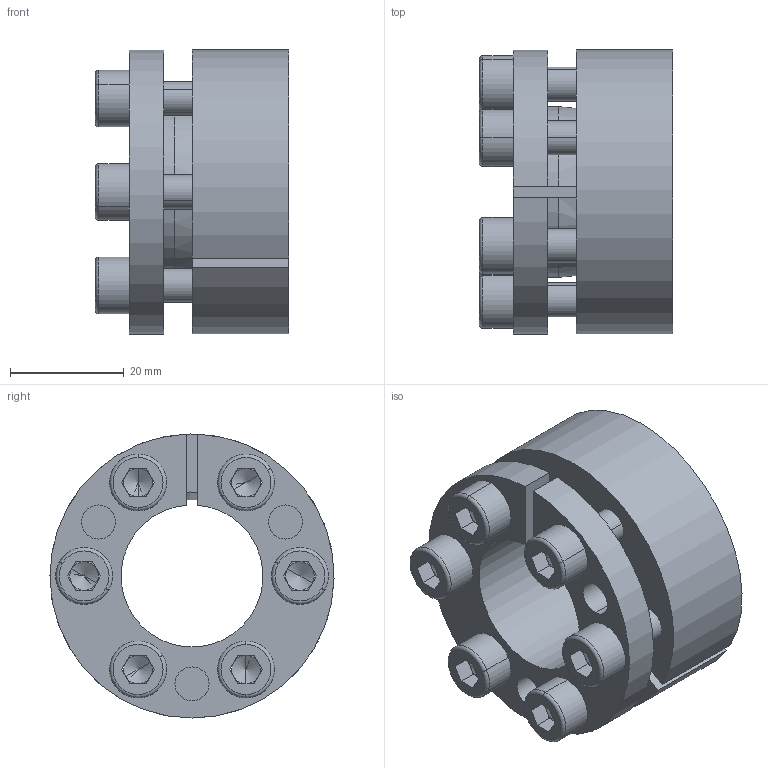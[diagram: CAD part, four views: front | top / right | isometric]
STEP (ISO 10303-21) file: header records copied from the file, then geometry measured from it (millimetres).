
FILE_DESCRIPTION (( 'STEP AP203' ), '1' );
FILE_NAME ('D2-25-50.STEP', '2017-10-12T04:20:37', ( 'MYCOM' ), ( '' ), 'SwSTEP 2.0', 'SolidWorks 2015', '' );
FILE_SCHEMA (( 'CONFIG_CONTROL_DESIGN' ));
Length unit declared in the file: millimetre
Products named in the file (1): D2-25-50
Bounding box: 34.01 x 49.99 x 50 mm (x, y, z)
Surface area: 20771.8 mm2 (no closed solid volume)
Topology: 0 solids, 14 shells, 168 faces, 426 edges, 258 vertices
Faces by surface type: plane 83, cylinder 59, cone 14, torus 12
Entity records: 5082 total; most frequent: DIRECTION 928, CARTESIAN_POINT 871, ORIENTED_EDGE 780, EDGE_CURVE 414, AXIS2_PLACEMENT_3D 349, VERTEX_POINT 258, VECTOR 230, LINE 230
